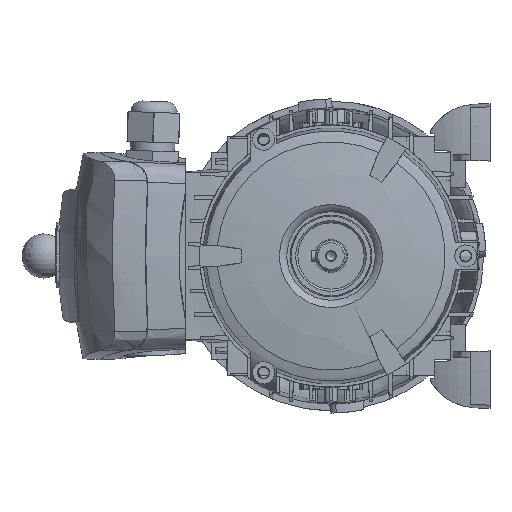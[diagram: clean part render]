
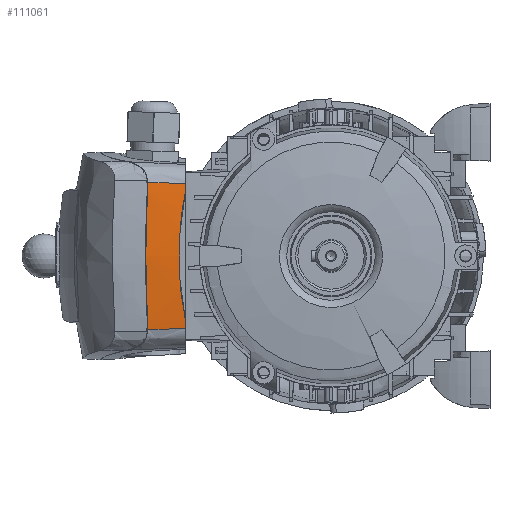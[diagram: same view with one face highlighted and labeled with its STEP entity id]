
A CAD part, left-side view. The second image highlights one B-rep face of the part: STEP entity #111061.
In plain terms, the highlighted conical face has half-angle 3 degrees and reference radius 300.942 mm.
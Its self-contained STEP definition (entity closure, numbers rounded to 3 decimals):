
#110945=CARTESIAN_POINT('',(0.0,17.971,-254.));
#110946=DIRECTION('',(0.0,1.0,0.0));
#110947=DIRECTION('',(0.0,0.0,1.0));
#110948=AXIS2_PLACEMENT_3D('',#110945,#110946,#110947);
#110949=CONICAL_SURFACE('',#110948,300.942,3.);
#110950=CARTESIAN_POINT('',(-28.949,0.0,44.6));
#110951=VERTEX_POINT('',#110950);
#110952=CARTESIAN_POINT('',(0.,2.82,46.148));
#110953=VERTEX_POINT('',#110952);
#110954=CARTESIAN_POINT('',(-28.949,0.,44.6));
#110955=CARTESIAN_POINT('',(-27.775,0.231,44.726));
#110956=CARTESIAN_POINT('',(-26.599,0.448,44.844));
#110957=CARTESIAN_POINT('',(-16.878,2.119,45.759));
#110958=CARTESIAN_POINT('',(-8.3,2.82,46.148));
#110959=CARTESIAN_POINT('',(0.,2.82,46.148));
#110960=B_SPLINE_CURVE_WITH_KNOTS('',3,(#110954,#110955,#110956,#110957,#110958,#110959),.UNSPECIFIED.,.F.,.U.,(4,2,4),(-12.792,-12.45,-9.96),.UNSPECIFIED.);
#110961=EDGE_CURVE('',#110951,#110953,#110960,.T.);
#110962=ORIENTED_EDGE('',*,*,#110961,.T.);
#110963=CARTESIAN_POINT('',(28.949,0.,44.6));
#110964=VERTEX_POINT('',#110963);
#110965=CARTESIAN_POINT('',(0.,2.82,46.148));
#110966=CARTESIAN_POINT('',(8.3,2.82,46.148));
#110967=CARTESIAN_POINT('',(16.878,2.119,45.759));
#110968=CARTESIAN_POINT('',(26.599,0.448,44.844));
#110969=CARTESIAN_POINT('',(27.775,0.231,44.726));
#110970=CARTESIAN_POINT('',(28.949,0.,44.6));
#110971=B_SPLINE_CURVE_WITH_KNOTS('',3,(#110965,#110966,#110967,#110968,#110969,#110970),.UNSPECIFIED.,.F.,.U.,(4,2,4),(-9.96,-7.47,-7.127),.UNSPECIFIED.);
#110972=EDGE_CURVE('',#110953,#110964,#110971,.T.);
#110973=ORIENTED_EDGE('',*,*,#110972,.T.);
#110974=CARTESIAN_POINT('',(32.701,0.,44.212));
#110975=VERTEX_POINT('',#110974);
#110976=CARTESIAN_POINT('',(0.0,0.0,-254.));
#110977=DIRECTION('',(0.0,1.0,0.0));
#110978=DIRECTION('',(0.0,0.0,1.0));
#110979=AXIS2_PLACEMENT_3D('',#110976,#110977,#110978);
#110980=CIRCLE('',#110979,300.);
#110981=EDGE_CURVE('',#110964,#110975,#110980,.T.);
#110982=ORIENTED_EDGE('',*,*,#110981,.T.);
#110983=CARTESIAN_POINT('',(33.495,16.906,45.016));
#110984=VERTEX_POINT('',#110983);
#110985=CARTESIAN_POINT('',(33.495,16.906,45.016));
#110986=CARTESIAN_POINT('',(33.231,11.27,44.748));
#110987=CARTESIAN_POINT('',(32.966,5.635,44.48));
#110988=CARTESIAN_POINT('',(32.701,0.,44.212));
#110989=B_SPLINE_CURVE_WITH_KNOTS('',3,(#110985,#110986,#110987,#110988),.UNSPECIFIED.,.F.,.U.,(4,4),(0.,1.0),.UNSPECIFIED.);
#110990=EDGE_CURVE('',#110984,#110975,#110989,.T.);
#110991=ORIENTED_EDGE('',*,*,#110990,.F.);
#110992=CARTESIAN_POINT('',(29.035,17.143,45.494));
#110993=VERTEX_POINT('',#110992);
#110994=CARTESIAN_POINT('',(-0.256,-97.654,-191.651));
#110995=DIRECTION('',(0.001,0.9,-0.436));
#110996=DIRECTION('',(0.127,0.432,0.893));
#110997=AXIS2_PLACEMENT_3D('',#110994,#110995,#110996);
#110998=CIRCLE('',#110997,265.093);
#110999=EDGE_CURVE('',#110993,#110984,#110998,.T.);
#111000=ORIENTED_EDGE('',*,*,#110999,.F.);
#111001=CARTESIAN_POINT('',(0.,17.864,46.936));
#111002=VERTEX_POINT('',#111001);
#111003=CARTESIAN_POINT('',(0.,17.864,46.936));
#111004=CARTESIAN_POINT('',(4.85,17.864,46.936));
#111005=CARTESIAN_POINT('',(9.699,17.803,46.816));
#111006=CARTESIAN_POINT('',(19.383,17.562,46.335));
#111007=CARTESIAN_POINT('',(24.215,17.382,45.974));
#111008=CARTESIAN_POINT('',(29.035,17.143,45.494));
#111009=B_SPLINE_CURVE_WITH_KNOTS('',3,(#111003,#111004,#111005,#111006,#111007,#111008),.UNSPECIFIED.,.F.,.U.,(4,2,4),(0.,1.455,2.911),.UNSPECIFIED.);
#111010=EDGE_CURVE('',#111002,#110993,#111009,.T.);
#111011=ORIENTED_EDGE('',*,*,#111010,.F.);
#111012=CARTESIAN_POINT('',(-28.99,17.145,45.499));
#111013=VERTEX_POINT('',#111012);
#111014=CARTESIAN_POINT('',(-28.99,17.145,45.499));
#111015=CARTESIAN_POINT('',(-24.177,17.383,45.977));
#111016=CARTESIAN_POINT('',(-19.351,17.563,46.337));
#111017=CARTESIAN_POINT('',(-9.682,17.803,46.816));
#111018=CARTESIAN_POINT('',(-4.842,17.864,46.936));
#111019=CARTESIAN_POINT('',(0.,17.864,46.936));
#111020=B_SPLINE_CURVE_WITH_KNOTS('',3,(#111014,#111015,#111016,#111017,#111018,#111019),.UNSPECIFIED.,.F.,.U.,(4,2,4),(0.,1.453,2.905),.UNSPECIFIED.);
#111021=EDGE_CURVE('',#111013,#111002,#111020,.T.);
#111022=ORIENTED_EDGE('',*,*,#111021,.F.);
#111023=CARTESIAN_POINT('',(-29.027,17.143,45.495));
#111024=VERTEX_POINT('',#111023);
#111025=CARTESIAN_POINT('',(-28.99,17.145,45.499));
#111026=CARTESIAN_POINT('',(-28.996,17.145,45.498));
#111027=CARTESIAN_POINT('',(-29.002,17.145,45.498));
#111028=CARTESIAN_POINT('',(-29.015,17.144,45.496));
#111029=CARTESIAN_POINT('',(-29.021,17.144,45.496));
#111030=CARTESIAN_POINT('',(-29.027,17.143,45.495));
#111031=B_SPLINE_CURVE_WITH_KNOTS('',3,(#111025,#111026,#111027,#111028,#111029,#111030),.UNSPECIFIED.,.F.,.U.,(4,2,4),(-0.004,-0.002,0.0),.UNSPECIFIED.);
#111032=EDGE_CURVE('',#111013,#111024,#111031,.T.);
#111033=ORIENTED_EDGE('',*,*,#111032,.T.);
#111034=CARTESIAN_POINT('',(-33.495,16.906,45.016));
#111035=VERTEX_POINT('',#111034);
#111036=CARTESIAN_POINT('',(0.26,-97.604,-191.71));
#111037=DIRECTION('',(0.001,-0.9,0.436));
#111038=DIRECTION('',(-0.127,0.432,0.893));
#111039=AXIS2_PLACEMENT_3D('',#111036,#111037,#111038);
#111040=CIRCLE('',#111039,265.124);
#111041=EDGE_CURVE('',#111024,#111035,#111040,.T.);
#111042=ORIENTED_EDGE('',*,*,#111041,.T.);
#111043=CARTESIAN_POINT('',(-32.701,0.,44.212));
#111044=VERTEX_POINT('',#111043);
#111045=CARTESIAN_POINT('',(-33.495,16.906,45.016));
#111046=CARTESIAN_POINT('',(-33.23,11.27,44.748));
#111047=CARTESIAN_POINT('',(-32.965,5.635,44.481));
#111048=CARTESIAN_POINT('',(-32.701,0.,44.212));
#111049=B_SPLINE_CURVE_WITH_KNOTS('',3,(#111045,#111046,#111047,#111048),.UNSPECIFIED.,.F.,.U.,(4,4),(0.,1.0),.UNSPECIFIED.);
#111050=EDGE_CURVE('',#111035,#111044,#111049,.T.);
#111051=ORIENTED_EDGE('',*,*,#111050,.T.);
#111052=CARTESIAN_POINT('',(0.0,0.0,-254.));
#111053=DIRECTION('',(0.0,1.0,0.0));
#111054=DIRECTION('',(0.0,0.0,1.0));
#111055=AXIS2_PLACEMENT_3D('',#111052,#111053,#111054);
#111056=CIRCLE('',#111055,300.);
#111057=EDGE_CURVE('',#111044,#110951,#111056,.T.);
#111058=ORIENTED_EDGE('',*,*,#111057,.T.);
#111059=EDGE_LOOP('',(#110962,#110973,#110982,#110991,#111000,#111011,#111022,#111033,#111042,#111051,#111058));
#111060=FACE_OUTER_BOUND('',#111059,.T.);
#111061=ADVANCED_FACE('',(#111060),#110949,.T.);
